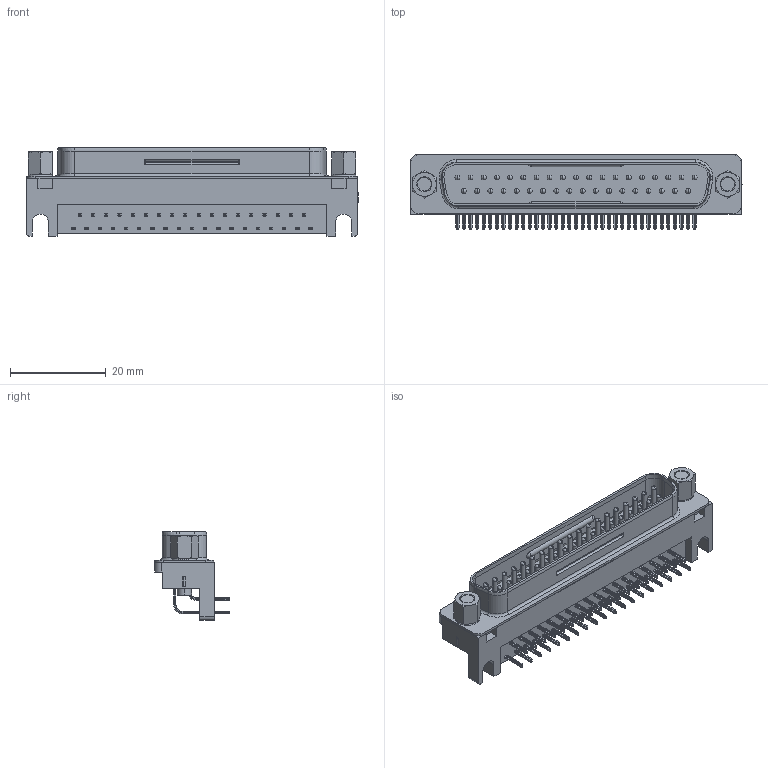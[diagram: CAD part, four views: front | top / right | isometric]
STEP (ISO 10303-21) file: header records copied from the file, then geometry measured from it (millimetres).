
FILE_DESCRIPTION (( 'STEP AP203' ), '1' );
FILE_NAME ('17LE-23370-27(D4C)-FA.STEP', '2022-01-25T11:54:39', ( '' ), ( '' ), 'SwSTEP 2.0', 'SolidWorks 2018', '' );
FILE_SCHEMA (( 'CONFIG_CONTROL_DESIGN' ));
Length unit declared in the file: millimetre
Products named in the file (1): 17LE-23370-27(D4C)-FA
Bounding box: 69.51 x 15.69 x 18.53 mm (x, y, z)
Volume: 5963.5 mm3; surface area: 7619.9 mm2
Topology: 1 solids, 5 shells, 2013 faces, 5464 edges, 3473 vertices
Faces by surface type: plane 912, cylinder 789, torus 214, sphere 78, cone 20
Entity records: 64297 total; most frequent: CARTESIAN_POINT 12707, DIRECTION 11064, ORIENTED_EDGE 10764, EDGE_CURVE 5382, AXIS2_PLACEMENT_3D 3946, VERTEX_POINT 3469, LINE 3172, VECTOR 3172
